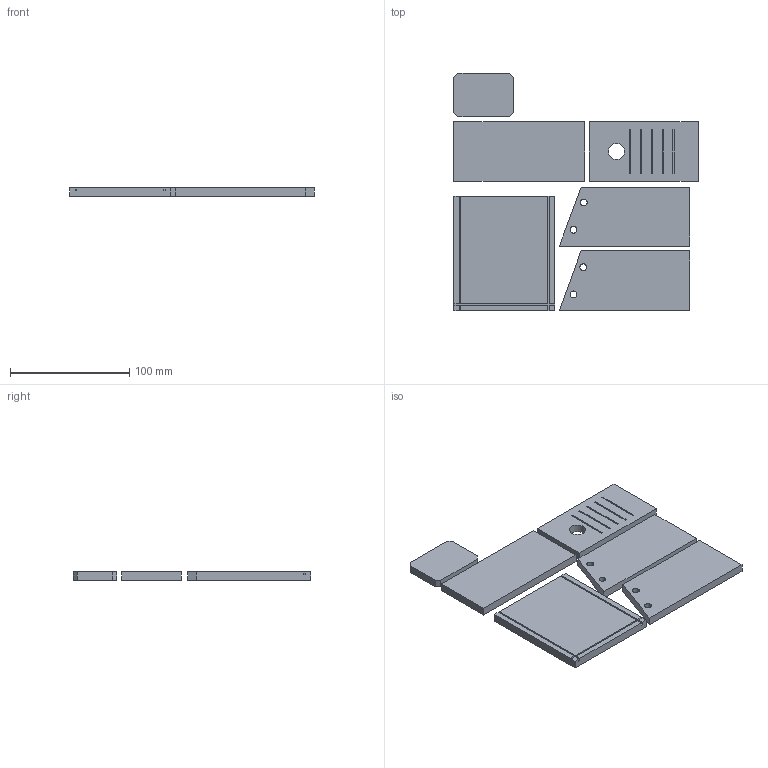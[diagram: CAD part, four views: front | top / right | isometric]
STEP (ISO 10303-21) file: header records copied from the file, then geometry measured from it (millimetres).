
FILE_DESCRIPTION(('Open CASCADE Model'),'2;1');
FILE_NAME('Open CASCADE Shape Model','2026-07-25T07:36:20',('Author'),( 'Open CASCADE'),'Open CASCADE STEP processor 7.9','Open CASCADE 7.9' ,'Unknown');
FILE_SCHEMA(('AUTOMOTIVE_DESIGN { 1 0 10303 214 1 1 1 1 }'));
Length unit declared in the file: millimetre
Products named in the file (7): Open CASCADE STEP translator 7.9 1; Open CASCADE STEP translator 7.9 1.1; Open CASCADE STEP translator 7.9 1.2; Open CASCADE STEP translator 7.9 1.3; Open CASCADE STEP translator 7.9 1.4; Open CASCADE STEP translator 7.9 1.5; Open CASCADE STEP translator 7.9 1.6
Assembly tree (6 placements, depth 2):
  Open CASCADE STEP translator 7.9 1
    Open CASCADE STEP translator 7.9 1.1
    Open CASCADE STEP translator 7.9 1.2
    Open CASCADE STEP translator 7.9 1.3
    Open CASCADE STEP translator 7.9 1.4
    Open CASCADE STEP translator 7.9 1.5
    Open CASCADE STEP translator 7.9 1.6
Bounding box: 205.17 x 199.45 x 6.86 mm (x, y, z)
Volume: 203452.5 mm3; surface area: 73978.9 mm2
Topology: 6 solids, 6 shells, 98 faces, 227 edges, 146 vertices
Faces by surface type: plane 93, cylinder 5
Full cylindrical faces by diameter (mm): 5.715 x4, 13.716 x1
Entity records: 5792 total; most frequent: CARTESIAN_POINT 932, DIRECTION 901, LINE 661, VECTOR 661, ORIENTED_EDGE 454, PCURVE 454, DEFINITIONAL_REPRESENTATION 454, EDGE_CURVE 227
